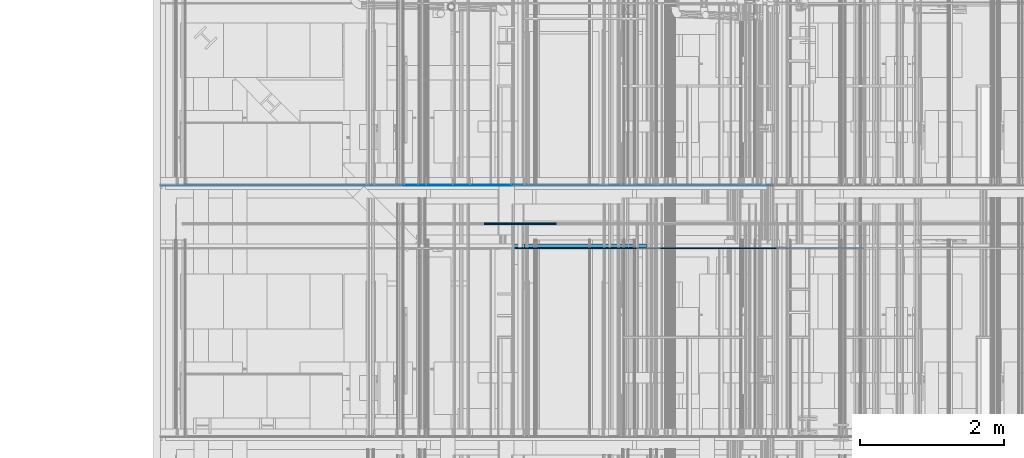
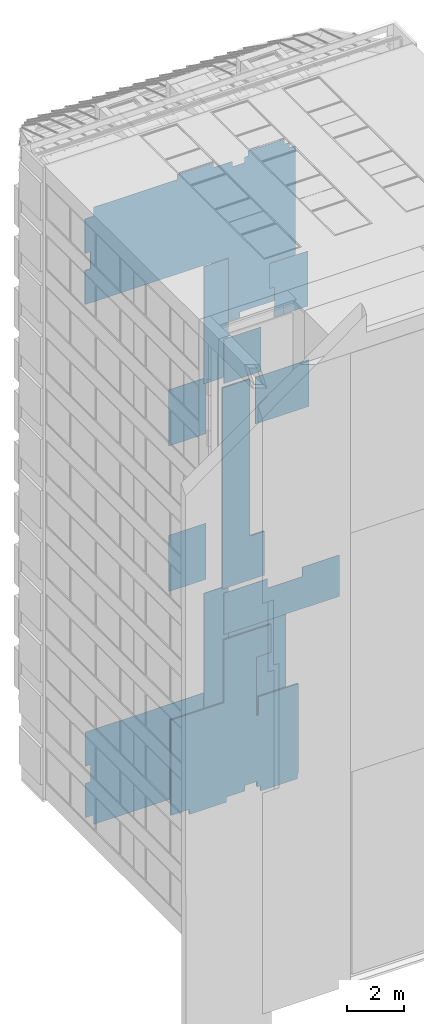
# One storey, part 252 of 583: 18 slabs.
"""IFC2X3 building model written with IfcOpenShell, lengths in metres."""

from ifc_helpers import new_model, entity, si_unit, converted_unit, derived_unit, money_unit, direction, frame, origin_with_axes, place, context, subcontext, project, spatial, faceted_brep, material, type_object, element, save


model = new_model("IFC2X3")

# Units and contexts
model_context = context("Model", 3, precision=1e-05, world=origin_with_axes(), true_north=direction((0.0, 1.0)))
body_context = subcontext(model_context, "Body", "Model", "MODEL_VIEW", scale=1.0)
ifc_project = project(units=[si_unit("LENGTHUNIT", "METRE"), si_unit("AREAUNIT", "SQUARE_METRE"), si_unit("VOLUMEUNIT", "CUBIC_METRE"), si_unit("ABSORBEDDOSEUNIT", "GRAY"), si_unit("AMOUNTOFSUBSTANCEUNIT", "MOLE"), si_unit("DOSEEQUIVALENTUNIT", "SIEVERT"), si_unit("ELECTRICCAPACITANCEUNIT", "FARAD"), si_unit("ELECTRICCHARGEUNIT", "COULOMB"), si_unit("ELECTRICCONDUCTANCEUNIT", "SIEMENS"), si_unit("ELECTRICCURRENTUNIT", "AMPERE"), si_unit("ELECTRICRESISTANCEUNIT", "OHM"), si_unit("ELECTRICVOLTAGEUNIT", "VOLT"), si_unit("ENERGYUNIT", "JOULE"), si_unit("FORCEUNIT", "NEWTON"), si_unit("FREQUENCYUNIT", "HERTZ"), si_unit("ILLUMINANCEUNIT", "LUX"), si_unit("INDUCTANCEUNIT", "HENRY"), si_unit("LUMINOUSFLUXUNIT", "LUMEN"), si_unit("LUMINOUSINTENSITYUNIT", "CANDELA"), si_unit("MAGNETICFLUXDENSITYUNIT", "TESLA"), si_unit("MAGNETICFLUXUNIT", "WEBER"), si_unit("MASSUNIT", "GRAM"), converted_unit("PLANEANGLEUNIT", "degree", entity("IfcReal", 0.0174532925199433), si_unit("PLANEANGLEUNIT", "RADIAN"), dimensions=[0, 0, 0, 0, 0, 0, 0]), si_unit("POWERUNIT", "WATT"), si_unit("PRESSUREUNIT", "PASCAL"), si_unit("RADIOACTIVITYUNIT", "BECQUEREL"), si_unit("SOLIDANGLEUNIT", "STERADIAN"), si_unit("THERMODYNAMICTEMPERATUREUNIT", "KELVIN"), si_unit("TIMEUNIT", "SECOND"), derived_unit("ACCELERATIONUNIT", [(si_unit("LENGTHUNIT", "METRE"), 1), (si_unit("TIMEUNIT", "SECOND"), -2)]), derived_unit("ANGULARVELOCITYUNIT", [(converted_unit("PLANEANGLEUNIT", "degree", entity("IfcReal", 0.0174532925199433), si_unit("PLANEANGLEUNIT", "RADIAN"), dimensions=[0, 0, 0, 0, 0, 0, 0]), 1), (si_unit("TIMEUNIT", "SECOND"), -1)]), derived_unit("CURVATUREUNIT", [(converted_unit("PLANEANGLEUNIT", "degree", entity("IfcReal", 0.0174532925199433), si_unit("PLANEANGLEUNIT", "RADIAN"), dimensions=[0, 0, 0, 0, 0, 0, 0]), 1), (si_unit("LENGTHUNIT", "METRE"), -1)]), derived_unit("DYNAMICVISCOSITYUNIT", [(si_unit("PRESSUREUNIT", "PASCAL"), 1), (si_unit("TIMEUNIT", "SECOND"), 1)]), derived_unit("HEATFLUXDENSITYUNIT", [(si_unit("POWERUNIT", "WATT"), 1), (si_unit("LENGTHUNIT", "METRE"), -2)]), derived_unit("HEATINGVALUEUNIT", [(si_unit("ENERGYUNIT", "JOULE"), 1), (si_unit("MASSUNIT", "GRAM"), -1)]), derived_unit("INTEGERCOUNTRATEUNIT", [(si_unit("TIMEUNIT", "SECOND"), -1)]), derived_unit("IONCONCENTRATIONUNIT", [(si_unit("MASSUNIT", "GRAM"), 1), (si_unit("VOLUMEUNIT", "CUBIC_METRE"), -1)]), derived_unit("ISOTHERMALMOISTURECAPACITYUNIT", [(si_unit("VOLUMEUNIT", "CUBIC_METRE"), 1), (si_unit("MASSUNIT", "GRAM"), -1)]), derived_unit("KINEMATICVISCOSITYUNIT", [(si_unit("AREAUNIT", "SQUARE_METRE"), 1), (si_unit("TIMEUNIT", "SECOND"), -1)]), derived_unit("LINEARFORCEUNIT", [(si_unit("FORCEUNIT", "NEWTON"), 1), (si_unit("LENGTHUNIT", "METRE"), -1)]), derived_unit("LINEARMOMENTUNIT", [(si_unit("FORCEUNIT", "NEWTON"), 1), (si_unit("LENGTHUNIT", "METRE"), -1)]), derived_unit("LINEARSTIFFNESSUNIT", [(si_unit("FORCEUNIT", "NEWTON"), 1), (si_unit("LENGTHUNIT", "METRE"), -1)]), derived_unit("LINEARVELOCITYUNIT", [(si_unit("LENGTHUNIT", "METRE"), 1), (si_unit("TIMEUNIT", "SECOND"), -1)]), derived_unit("LUMINOUSINTENSITYDISTRIBUTIONUNIT", [(si_unit("LUMINOUSINTENSITYUNIT", "CANDELA"), 1), (si_unit("LUMINOUSFLUXUNIT", "LUMEN"), -1)]), derived_unit("MASSDENSITYUNIT", [(si_unit("MASSUNIT", "GRAM"), 1), (si_unit("VOLUMEUNIT", "CUBIC_METRE"), -1)]), derived_unit("MASSFLOWRATEUNIT", [(si_unit("MASSUNIT", "GRAM"), 1), (si_unit("TIMEUNIT", "SECOND"), -1)]), derived_unit("MASSPERLENGTHUNIT", [(si_unit("MASSUNIT", "GRAM"), 1), (si_unit("LENGTHUNIT", "METRE"), -1)]), derived_unit("MODULUSOFELASTICITYUNIT", [(si_unit("FORCEUNIT", "NEWTON"), 1), (si_unit("AREAUNIT", "SQUARE_METRE"), -1)]), derived_unit("MODULUSOFLINEARSUBGRADEREACTIONUNIT", [(si_unit("FORCEUNIT", "NEWTON"), 1), (si_unit("LENGTHUNIT", "METRE"), -2)]), derived_unit("MODULUSOFROTATIONALSUBGRADEREACTIONUNIT", [(si_unit("FORCEUNIT", "NEWTON"), 1), (si_unit("LENGTHUNIT", "METRE"), 1)]), derived_unit("MODULUSOFSUBGRADEREACTIONUNIT", [(si_unit("FORCEUNIT", "NEWTON"), 1), (si_unit("VOLUMEUNIT", "CUBIC_METRE"), -1)]), derived_unit("MOISTUREDIFFUSIVITYUNIT", [(si_unit("VOLUMEUNIT", "CUBIC_METRE"), 1), (si_unit("TIMEUNIT", "SECOND"), -1)]), derived_unit("MOLECULARWEIGHTUNIT", [(si_unit("MASSUNIT", "GRAM"), 1), (si_unit("AMOUNTOFSUBSTANCEUNIT", "MOLE"), -1)]), derived_unit("PLANARFORCEUNIT", [(si_unit("FORCEUNIT", "NEWTON"), 1), (si_unit("LENGTHUNIT", "METRE"), -2)]), derived_unit("ROTATIONALFREQUENCYUNIT", [(si_unit("TIMEUNIT", "SECOND"), -1)]), derived_unit("ROTATIONALMASSUNIT", [(si_unit("MASSUNIT", "GRAM"), 1), (si_unit("LENGTHUNIT", "METRE"), 2)]), derived_unit("ROTATIONALSTIFFNESSUNIT", [(si_unit("FORCEUNIT", "NEWTON"), 1), (si_unit("LENGTHUNIT", "METRE"), 1), (converted_unit("PLANEANGLEUNIT", "degree", entity("IfcReal", 0.0174532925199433), si_unit("PLANEANGLEUNIT", "RADIAN"), dimensions=[0, 0, 0, 0, 0, 0, 0]), -1)]), derived_unit("SECTIONAREAINTEGRALUNIT", [(si_unit("LENGTHUNIT", "METRE"), 5)]), derived_unit("SECTIONMODULUSUNIT", [(si_unit("LENGTHUNIT", "METRE"), 3)]), derived_unit("SHEARMODULUSUNIT", [(si_unit("FORCEUNIT", "NEWTON"), 1), (si_unit("AREAUNIT", "SQUARE_METRE"), -1)]), derived_unit("SOUNDPOWERUNIT", [(si_unit("ENERGYUNIT", "JOULE"), 1), (si_unit("TIMEUNIT", "SECOND"), -1)]), derived_unit("SPECIFICHEATCAPACITYUNIT", [(si_unit("FORCEUNIT", "NEWTON"), 1), (si_unit("MASSUNIT", "GRAM"), -1), (si_unit("THERMODYNAMICTEMPERATUREUNIT", "KELVIN"), -1)]), derived_unit("TEMPERATUREGRADIENTUNIT", [(si_unit("THERMODYNAMICTEMPERATUREUNIT", "KELVIN"), 1), (si_unit("LENGTHUNIT", "METRE"), -1)]), derived_unit("THERMALADMITTANCEUNIT", [(si_unit("POWERUNIT", "WATT"), 1), (si_unit("AREAUNIT", "SQUARE_METRE"), -1), (si_unit("THERMODYNAMICTEMPERATUREUNIT", "KELVIN"), -1)]), derived_unit("THERMALCONDUCTANCEUNIT", [(si_unit("POWERUNIT", "WATT"), 1), (si_unit("LENGTHUNIT", "METRE"), -1), (si_unit("THERMODYNAMICTEMPERATUREUNIT", "KELVIN"), -1)]), derived_unit("THERMALEXPANSIONCOEFFICIENTUNIT", [(si_unit("THERMODYNAMICTEMPERATUREUNIT", "KELVIN"), -1)]), derived_unit("THERMALRESISTANCEUNIT", [(si_unit("AREAUNIT", "SQUARE_METRE"), 1), (si_unit("POWERUNIT", "WATT"), -1)]), derived_unit("THERMALTRANSMITTANCEUNIT", [(si_unit("POWERUNIT", "WATT"), 1), (si_unit("AREAUNIT", "SQUARE_METRE"), -1), (si_unit("THERMODYNAMICTEMPERATUREUNIT", "KELVIN"), -1)]), derived_unit("TORQUEUNIT", [(si_unit("FORCEUNIT", "NEWTON"), 1), (si_unit("LENGTHUNIT", "METRE"), 1)]), derived_unit("VAPORPERMEABILITYUNIT", [(si_unit("MASSUNIT", "GRAM"), 1), (si_unit("TIMEUNIT", "SECOND"), -1)]), derived_unit("VOLUMETRICFLOWRATEUNIT", [(si_unit("VOLUMEUNIT", "CUBIC_METRE"), 1), (si_unit("TIMEUNIT", "SECOND"), -1)]), derived_unit("WARPINGCONSTANTUNIT", [(si_unit("LENGTHUNIT", "METRE"), 6)]), derived_unit("WARPINGMOMENTUNIT", [(si_unit("FORCEUNIT", "NEWTON"), 1), (si_unit("LENGTHUNIT", "METRE"), 2)]), money_unit("GBP")], contexts=[model_context])

# Site, building, storey
site_placement = place(None, origin_with_axes())
site = spatial("IfcSite", under=ifc_project, at=site_placement, Name="Site", CompositionType="ELEMENT")
building_placement = place(site_placement, origin_with_axes())
building = spatial("IfcBuilding", under=site, at=building_placement, Name="Building01", CompositionType="ELEMENT")
storey_placement = place(building_placement, frame((0.0, 0.0, 20.78), z_axis=(0.0, 0.0, 1.0), x_axis=(1.0, 0.0, 0.0)))
storey = spatial("IfcBuildingStorey", under=building, at=storey_placement, Name="RL", CompositionType="ELEMENT", Elevation=20.78)

# Slabs
ifc_material_1 = material(Name="A_BSUK_ExpandedPolystyreneBoards")
slab_type_1 = type_object("IfcSlabType", Name="A-FloorsSlabs A_BSUK_Slabs", PredefinedType="FLOOR")
placement = place(storey_placement, frame((0.0, 0.0, -20.78), z_axis=(0.0, 0.0, 1.0), x_axis=(1.0, 0.0, 0.0)))
element("IfcSlab", 1, at=placement, inside=storey, type_object=slab_type_1, material=ifc_material_1, Name="A-FloorsSlabs A_BSUK_Slabs", ObjectType="CompoundSlabLeaf", context=body_context, shape_type="Brep", body=[
    faceted_brep([(6.357147, 12.13, 20.122661), (6.357147, 12.133, 20.122661), (8.595, 12.133, 20.122661), (8.595, 12.13, 20.122661), (6.357147, 12.13, 19.897661), (6.357147, 12.133, 19.897661), (5.357147, 12.13, 19.897661), (5.357147, 12.133, 19.897661), (5.357147, 12.13, 20.122661), (5.357147, 12.133, 20.122661), (5.205, 12.13, 20.122661), (5.205, 12.133, 20.122661), (5.205, 12.13, 22.625), (5.205, 12.133, 22.625), (0.1, 12.13, 22.625), (0.1, 12.133, 22.625), (0.1, 12.13, 24.095), (0.1, 12.133, 24.095), (0.318, 12.13, 24.095), (0.318, 12.133, 24.095), (0.318, 12.13, 24.815), (0.318, 12.133, 24.815), (0.1, 12.13, 24.815), (0.1, 12.133, 24.815), (0.1, 12.13, 26.285), (0.1, 12.133, 26.285), (0.448, 12.13, 26.285), (0.448, 12.133, 26.285), (0.448, 12.13, 26.662), (0.448, 12.133, 26.662), (3.82218, 12.13, 26.662), (3.82218, 12.133, 26.662), (3.82218, 12.13, 26.88), (3.82218, 12.133, 26.88), (5.29218, 12.13, 26.88), (5.29218, 12.133, 26.88), (5.29218, 12.13, 26.662), (5.29218, 12.133, 26.662), (6.052, 12.13, 26.662), (6.052, 12.133, 26.662), (6.052, 12.13, 26.432), (6.052, 12.133, 26.432), (6.548, 12.13, 26.432), (6.548, 12.133, 26.432), (6.548, 12.13, 26.662), (6.548, 12.133, 26.662), (6.682326, 12.13, 26.662), (6.682326, 12.133, 26.662), (6.682326, 12.13, 26.88), (6.682326, 12.133, 26.88), (8.152326, 12.13, 26.88), (8.152326, 12.133, 26.88), (8.152326, 12.13, 26.662), (8.152326, 12.133, 26.662), (8.352, 12.13, 26.662), (8.352, 12.133, 26.662), (8.352, 12.13, 26.432), (8.352, 12.133, 26.432), (8.595, 12.13, 26.432), (8.595, 12.133, 26.432)], [[[0, 1, 2, 3]], [[4, 5, 1, 0]], [[6, 7, 5, 4]], [[8, 9, 7, 6]], [[10, 11, 9, 8]], [[12, 13, 11, 10]], [[14, 15, 13, 12]], [[16, 17, 15, 14]], [[18, 19, 17, 16]], [[20, 21, 19, 18]], [[22, 23, 21, 20]], [[24, 25, 23, 22]], [[26, 27, 25, 24]], [[28, 29, 27, 26]], [[30, 31, 29, 28]], [[32, 33, 31, 30]], [[34, 35, 33, 32]], [[36, 37, 35, 34]], [[38, 39, 37, 36]], [[40, 41, 39, 38]], [[42, 43, 41, 40]], [[44, 45, 43, 42]], [[46, 47, 45, 44]], [[48, 49, 47, 46]], [[50, 51, 49, 48]], [[52, 53, 51, 50]], [[54, 55, 53, 52]], [[56, 57, 55, 54]], [[58, 59, 57, 56]], [[3, 2, 59, 58]], [[1, 5, 7, 9, 11, 13, 15, 17, 19, 21, 23, 25, 27, 29, 31, 33, 35, 37, 39, 41, 43, 45, 47, 49, 51, 53, 55, 57, 59, 2]], [[3, 58, 56, 54, 52, 50, 48, 46, 44, 42, 40, 38, 36, 34, 32, 30, 28, 26, 24, 22, 20, 18, 16, 14, 12, 10, 8, 6, 4, 0]]]),
])
element("IfcSlab", 2, at=placement, inside=storey, type_object=slab_type_1, material=ifc_material_1, Name="A-FloorsSlabs A_BSUK_Slabs", ObjectType="CompoundSlabLeaf", context=body_context, shape_type="Brep", body=[
    faceted_brep([(8.21067, 12.13, 0.318), (8.21067, 12.133, 0.318), (8.21067, 12.133, 7.064669), (8.21067, 12.13, 7.064669), (8.185, 12.13, 0.318), (8.185, 12.133, 0.318), (8.185, 12.13, 0.1), (8.185, 12.133, 0.1), (6.69218, 12.13, 0.1), (6.69218, 12.133, 0.1), (6.69218, 12.13, 0.318), (6.69218, 12.133, 0.318), (6.548, 12.13, 0.318), (6.548, 12.133, 0.318), (6.548, 12.13, 0.548), (6.548, 12.133, 0.548), (6.052, 12.13, 0.548), (6.052, 12.133, 0.548), (6.052, 12.13, 0.318), (6.052, 12.133, 0.318), (5.315, 12.13, 0.318), (5.315, 12.133, 0.318), (5.315, 12.13, 0.1), (5.315, 12.133, 0.1), (3.82218, 12.13, 0.1), (3.82218, 12.133, 0.1), (3.82218, 12.13, 0.318), (3.82218, 12.133, 0.318), (0.448, 12.13, 0.318), (0.448, 12.133, 0.318), (0.448, 12.13, 0.725), (0.448, 12.133, 0.725), (0.1, 12.13, 0.725), (0.1, 12.133, 0.725), (0.1, 12.13, 2.195), (0.1, 12.133, 2.195), (0.318, 12.13, 2.195), (0.318, 12.133, 2.195), (0.318, 12.13, 2.915), (0.318, 12.133, 2.915), (0.1, 12.13, 2.915), (0.1, 12.133, 2.915), (0.1, 12.13, 4.385), (0.1, 12.133, 4.385), (0.318, 12.13, 4.385), (0.318, 12.133, 4.385), (5.205, 12.13, 4.385), (5.205, 12.133, 4.385), (5.205, 12.13, 7.064669), (5.205, 12.133, 7.064669), (5.316475, 12.13, 7.064669), (5.316475, 12.133, 7.064669), (5.316475, 12.13, 7.289669), (5.316475, 12.133, 7.289669), (6.316475, 12.13, 7.289669), (6.316475, 12.133, 7.289669), (6.316475, 12.13, 7.064669), (6.316475, 12.133, 7.064669)], [[[0, 1, 2, 3]], [[4, 5, 1, 0]], [[6, 7, 5, 4]], [[8, 9, 7, 6]], [[10, 11, 9, 8]], [[12, 13, 11, 10]], [[14, 15, 13, 12]], [[16, 17, 15, 14]], [[18, 19, 17, 16]], [[20, 21, 19, 18]], [[22, 23, 21, 20]], [[24, 25, 23, 22]], [[26, 27, 25, 24]], [[28, 29, 27, 26]], [[30, 31, 29, 28]], [[32, 33, 31, 30]], [[34, 35, 33, 32]], [[36, 37, 35, 34]], [[38, 39, 37, 36]], [[40, 41, 39, 38]], [[42, 43, 41, 40]], [[44, 45, 43, 42]], [[46, 47, 45, 44]], [[48, 49, 47, 46]], [[50, 51, 49, 48]], [[52, 53, 51, 50]], [[54, 55, 53, 52]], [[56, 57, 55, 54]], [[3, 2, 57, 56]], [[1, 5, 7, 9, 11, 13, 15, 17, 19, 21, 23, 25, 27, 29, 31, 33, 35, 37, 39, 41, 43, 45, 47, 49, 51, 53, 55, 57, 2]], [[3, 56, 54, 52, 50, 48, 46, 44, 42, 40, 38, 36, 34, 32, 30, 28, 26, 24, 22, 20, 18, 16, 14, 12, 10, 8, 6, 4, 0]]]),
])
ifc_material_2 = material(Name="A_BSUK_Parquet_Floor")
element("IfcSlab", 3, at=placement, inside=storey, type_object=slab_type_1, material=ifc_material_2, Name="A-FloorsSlabs A_BSUK_Slabs", ObjectType="CompoundSlabLeaf", context=body_context, shape_type="Brep", body=[
    faceted_brep([(5.357147, 12.133, 19.897661), (5.357147, 12.145, 19.897661), (6.357147, 12.145, 19.897661), (6.357147, 12.133, 19.897661), (5.357147, 12.133, 20.122661), (5.357147, 12.145, 20.122661), (5.205, 12.133, 20.122661), (5.205, 12.145, 20.122661), (5.205, 12.133, 22.625), (5.205, 12.145, 22.625), (0.1, 12.133, 22.625), (0.1, 12.145, 22.625), (0.1, 12.133, 24.095), (0.1, 12.145, 24.095), (0.318, 12.133, 24.095), (0.318, 12.145, 24.095), (0.318, 12.133, 24.815), (0.318, 12.145, 24.815), (0.1, 12.133, 24.815), (0.1, 12.145, 24.815), (0.1, 12.133, 26.285), (0.1, 12.145, 26.285), (0.448, 12.133, 26.285), (0.448, 12.145, 26.285), (0.448, 12.133, 26.662), (0.448, 12.145, 26.662), (3.82218, 12.133, 26.662), (3.82218, 12.145, 26.662), (3.82218, 12.133, 26.88), (3.82218, 12.145, 26.88), (5.29218, 12.133, 26.88), (5.29218, 12.145, 26.88), (5.29218, 12.133, 26.662), (5.29218, 12.145, 26.662), (6.052, 12.133, 26.662), (6.052, 12.145, 26.662), (6.052, 12.133, 26.432), (6.052, 12.145, 26.432), (6.548, 12.133, 26.432), (6.548, 12.145, 26.432), (6.548, 12.133, 26.662), (6.548, 12.145, 26.662), (6.682326, 12.133, 26.662), (6.682326, 12.145, 26.662), (6.682326, 12.133, 26.88), (6.682326, 12.145, 26.88), (8.152326, 12.133, 26.88), (8.152326, 12.145, 26.88), (8.152326, 12.133, 26.662), (8.152326, 12.145, 26.662), (8.352, 12.133, 26.662), (8.352, 12.145, 26.662), (8.352, 12.133, 26.432), (8.352, 12.145, 26.432), (8.595, 12.133, 26.432), (8.595, 12.145, 26.432), (8.595, 12.133, 22.571661), (8.595, 12.145, 22.571661), (7.0, 12.133, 22.571661), (7.0, 12.145, 22.571661), (7.0, 12.133, 23.271529), (7.0, 12.145, 23.271529), (6.905, 12.133, 23.271529), (6.905, 12.145, 23.271529), (6.905, 12.133, 22.326661), (6.905, 12.145, 22.326661), (7.0, 12.133, 22.326661), (7.0, 12.145, 22.326661), (7.0, 12.133, 21.576661), (7.0, 12.145, 21.576661), (6.905, 12.133, 21.576661), (6.905, 12.145, 21.576661), (6.905, 12.133, 21.322661), (6.905, 12.145, 21.322661), (7.155, 12.133, 21.322661), (7.155, 12.145, 21.322661), (7.155, 12.133, 20.122661), (7.155, 12.145, 20.122661), (6.905, 12.133, 20.122661), (6.905, 12.145, 20.122661), (6.357147, 12.133, 20.122661), (6.357147, 12.145, 20.122661)], [[[0, 1, 2, 3]], [[4, 5, 1, 0]], [[6, 7, 5, 4]], [[8, 9, 7, 6]], [[10, 11, 9, 8]], [[12, 13, 11, 10]], [[14, 15, 13, 12]], [[16, 17, 15, 14]], [[18, 19, 17, 16]], [[20, 21, 19, 18]], [[22, 23, 21, 20]], [[24, 25, 23, 22]], [[26, 27, 25, 24]], [[28, 29, 27, 26]], [[30, 31, 29, 28]], [[32, 33, 31, 30]], [[34, 35, 33, 32]], [[36, 37, 35, 34]], [[38, 39, 37, 36]], [[40, 41, 39, 38]], [[42, 43, 41, 40]], [[44, 45, 43, 42]], [[46, 47, 45, 44]], [[48, 49, 47, 46]], [[50, 51, 49, 48]], [[52, 53, 51, 50]], [[54, 55, 53, 52]], [[56, 57, 55, 54]], [[58, 59, 57, 56]], [[60, 61, 59, 58]], [[62, 63, 61, 60]], [[64, 65, 63, 62]], [[66, 67, 65, 64]], [[68, 69, 67, 66]], [[70, 71, 69, 68]], [[72, 73, 71, 70]], [[74, 75, 73, 72]], [[76, 77, 75, 74]], [[78, 79, 77, 76]], [[80, 81, 79, 78]], [[3, 2, 81, 80]], [[1, 5, 7, 9, 11, 13, 15, 17, 19, 21, 23, 25, 27, 29, 31, 33, 35, 37, 39, 41, 43, 45, 47, 49, 51, 53, 55, 57, 59, 61, 63, 65, 67, 69, 71, 73, 75, 77, 79, 81, 2]], [[3, 80, 78, 76, 74, 72, 70, 68, 66, 64, 62, 60, 58, 56, 54, 52, 50, 48, 46, 44, 42, 40, 38, 36, 34, 32, 30, 28, 26, 24, 22, 20, 18, 16, 14, 12, 10, 8, 6, 4, 0]]]),
])
ifc_material_3 = material(Name="A_BSUK_Ceramic_FloorTiles")
element("IfcSlab", 4, at=placement, inside=storey, type_object=slab_type_1, material=ifc_material_3, Name="A-FloorsSlabs A_BSUK_Slabs", ObjectType="CompoundSlabLeaf", context=body_context, shape_type="Brep", body=[
    faceted_brep([(4.98, 12.133, 15.4075), (4.98, 12.145, 15.4075), (4.98, 12.145, 17.8075), (4.98, 12.133, 17.8075), (4.259428, 12.133, 15.4075), (4.259428, 12.145, 15.4075), (3.48, 12.133, 15.4075), (3.48, 12.145, 15.4075), (3.48, 12.133, 17.8075), (3.48, 12.145, 17.8075)], [[[0, 1, 2, 3]], [[4, 5, 1, 0]], [[6, 7, 5, 4]], [[8, 9, 7, 6]], [[3, 2, 9, 8]], [[1, 5, 7, 9, 2]], [[3, 8, 6, 4, 0]]]),
])
element("IfcSlab", 5, at=placement, inside=storey, type_object=slab_type_1, material=ifc_material_3, Name="A-FloorsSlabs A_BSUK_Slabs", ObjectType="CompoundSlabLeaf", context=body_context, shape_type="Brep", body=[
    faceted_brep([(4.98, 12.133, 9.192536), (4.98, 12.145, 9.192536), (4.98, 12.145, 11.592536), (4.98, 12.133, 11.592536), (3.48, 12.133, 9.192536), (3.48, 12.145, 9.192536), (3.48, 12.133, 11.592536), (3.48, 12.145, 11.592536), (4.259428, 12.133, 11.592536), (4.259428, 12.145, 11.592536)], [[[0, 1, 2, 3]], [[4, 5, 1, 0]], [[6, 7, 5, 4]], [[8, 9, 7, 6]], [[3, 2, 9, 8]], [[1, 5, 7, 9, 2]], [[3, 8, 6, 4, 0]]]),
])
element("IfcSlab", 6, at=placement, inside=storey, type_object=slab_type_1, material=ifc_material_2, Name="A-FloorsSlabs A_BSUK_Slabs", ObjectType="CompoundSlabLeaf", context=body_context, shape_type="Brep", body=[
    faceted_brep([(6.316475, 12.133, 7.289669), (6.316475, 12.145, 7.289669), (5.316475, 12.145, 7.289669), (5.316475, 12.133, 7.289669), (6.316475, 12.133, 7.064669), (6.316475, 12.145, 7.064669), (7.111475, 12.133, 7.064669), (7.111475, 12.145, 7.064669), (7.111475, 12.133, 5.864669), (7.111475, 12.145, 5.864669), (6.511475, 12.133, 5.864669), (6.511475, 12.145, 5.864669), (6.511475, 12.133, 5.679088), (6.511475, 12.145, 5.679088), (6.606475, 12.133, 5.679088), (6.606475, 12.145, 5.679088), (6.606475, 12.133, 4.929088), (6.606475, 12.145, 4.929088), (6.511475, 12.133, 4.929088), (6.511475, 12.145, 4.929088), (6.511475, 12.133, 3.37073), (6.511475, 12.145, 3.37073), (6.606475, 12.133, 3.37073), (6.606475, 12.145, 3.37073), (6.606475, 12.133, 4.14573), (6.606475, 12.145, 4.14573), (8.21067, 12.133, 4.14573), (8.21067, 12.145, 4.14573), (8.21067, 12.133, 0.318), (8.21067, 12.145, 0.318), (8.185, 12.133, 0.318), (8.185, 12.145, 0.318), (8.185, 12.133, 0.1), (8.185, 12.145, 0.1), (6.69218, 12.133, 0.1), (6.69218, 12.145, 0.1), (6.69218, 12.133, 0.318), (6.69218, 12.145, 0.318), (6.548, 12.133, 0.318), (6.548, 12.145, 0.318), (6.548, 12.133, 0.548), (6.548, 12.145, 0.548), (6.052, 12.133, 0.548), (6.052, 12.145, 0.548), (6.052, 12.133, 0.318), (6.052, 12.145, 0.318), (5.315, 12.133, 0.318), (5.315, 12.145, 0.318), (5.315, 12.133, 0.1), (5.315, 12.145, 0.1), (3.82218, 12.133, 0.1), (3.82218, 12.145, 0.1), (3.82218, 12.133, 0.318), (3.82218, 12.145, 0.318), (3.065286, 12.133, 0.318), (3.065286, 12.145, 0.318), (3.065286, 12.133, 2.751), (3.065286, 12.145, 2.751), (2.970286, 12.133, 2.751), (2.970286, 12.145, 2.751), (2.970286, 12.133, 3.651), (2.970286, 12.145, 3.651), (3.065286, 12.133, 3.651), (3.065286, 12.145, 3.651), (3.065286, 12.133, 4.385), (3.065286, 12.145, 4.385), (5.205, 12.133, 4.385), (5.205, 12.145, 4.385), (5.205, 12.133, 7.064669), (5.205, 12.145, 7.064669), (5.316475, 12.133, 7.064669), (5.316475, 12.145, 7.064669)], [[[0, 1, 2, 3]], [[4, 5, 1, 0]], [[6, 7, 5, 4]], [[8, 9, 7, 6]], [[10, 11, 9, 8]], [[12, 13, 11, 10]], [[14, 15, 13, 12]], [[16, 17, 15, 14]], [[18, 19, 17, 16]], [[20, 21, 19, 18]], [[22, 23, 21, 20]], [[24, 25, 23, 22]], [[26, 27, 25, 24]], [[28, 29, 27, 26]], [[30, 31, 29, 28]], [[32, 33, 31, 30]], [[34, 35, 33, 32]], [[36, 37, 35, 34]], [[38, 39, 37, 36]], [[40, 41, 39, 38]], [[42, 43, 41, 40]], [[44, 45, 43, 42]], [[46, 47, 45, 44]], [[48, 49, 47, 46]], [[50, 51, 49, 48]], [[52, 53, 51, 50]], [[54, 55, 53, 52]], [[56, 57, 55, 54]], [[58, 59, 57, 56]], [[60, 61, 59, 58]], [[62, 63, 61, 60]], [[64, 65, 63, 62]], [[66, 67, 65, 64]], [[68, 69, 67, 66]], [[70, 71, 69, 68]], [[3, 2, 71, 70]], [[1, 5, 7, 9, 11, 13, 15, 17, 19, 21, 23, 25, 27, 29, 31, 33, 35, 37, 39, 41, 43, 45, 47, 49, 51, 53, 55, 57, 59, 61, 63, 65, 67, 69, 71, 2]], [[3, 70, 68, 66, 64, 62, 60, 58, 56, 54, 52, 50, 48, 46, 44, 42, 40, 38, 36, 34, 32, 30, 28, 26, 24, 22, 20, 18, 16, 14, 12, 10, 8, 6, 4, 0]]]),
])
ifc_material_4 = material(Name="A_BSUK_CeilingSoffitFinishes_Suspended")
element("IfcSlab", 7, at=placement, inside=storey, type_object=slab_type_1, material=ifc_material_4, Name="A-FloorsSlabs A_BSUK_Slabs", ObjectType="CompoundSlabLeaf", context=body_context, shape_type="Brep", body=[
    faceted_brep([(5.205, 11.255, 7.289669), (5.205, 11.27, 7.289669), (9.862704, 11.27, 7.289669), (9.862704, 11.255, 7.289669), (5.205, 11.255, 9.06), (5.205, 11.27, 9.06), (6.968405, 11.255, 9.06), (6.968405, 11.27, 9.06), (6.968405, 11.255, 8.658), (6.968405, 11.27, 8.658), (8.372405, 11.255, 8.658), (8.372405, 11.27, 8.658), (8.372405, 11.255, 9.06), (8.372405, 11.27, 9.06), (8.665, 11.255, 9.06), (8.665, 11.27, 9.06), (9.862704, 11.255, 9.06), (9.862704, 11.27, 9.06)], [[[0, 1, 2, 3]], [[4, 5, 1, 0]], [[6, 7, 5, 4]], [[8, 9, 7, 6]], [[10, 11, 9, 8]], [[12, 13, 11, 10]], [[14, 15, 13, 12]], [[16, 17, 15, 14]], [[3, 2, 17, 16]], [[1, 5, 7, 9, 11, 13, 15, 17, 2]], [[3, 16, 14, 12, 10, 8, 6, 4, 0]]]),
])
element("IfcSlab", 8, at=placement, inside=storey, type_object=slab_type_1, material=ifc_material_4, Name="A-FloorsSlabs A_BSUK_Slabs", ObjectType="CompoundSlabLeaf", context=body_context, shape_type="Brep", body=[
    faceted_brep([(5.15, 11.255, 9.25), (5.15, 11.27, 9.25), (6.85, 11.27, 9.25), (6.85, 11.255, 9.25), (5.15, 11.255, 17.83), (5.15, 11.27, 17.83), (6.25, 11.255, 17.83), (6.25, 11.27, 17.83), (6.25, 11.255, 15.679803), (6.25, 11.27, 15.679803), (6.25, 11.255, 11.13), (6.25, 11.27, 11.13), (6.85, 11.255, 11.13), (6.85, 11.27, 11.13)], [[[0, 1, 2, 3]], [[4, 5, 1, 0]], [[6, 7, 5, 4]], [[8, 9, 7, 6]], [[10, 11, 9, 8]], [[12, 13, 11, 10]], [[3, 2, 13, 12]], [[1, 5, 7, 9, 11, 13, 2]], [[3, 12, 10, 8, 6, 4, 0]]]),
])
element("IfcSlab", 9, at=placement, inside=storey, type_object=slab_type_1, material=ifc_material_4, Name="A-FloorsSlabs A_BSUK_Slabs", ObjectType="CompoundSlabLeaf", context=body_context, shape_type="Brep", body=[
    faceted_brep([(6.705, 11.255, 18.0), (6.705, 11.27, 18.0), (6.705, 11.27, 19.897661), (6.705, 11.255, 19.897661), (5.205, 11.255, 18.0), (5.205, 11.27, 18.0), (5.205, 11.255, 19.897661), (5.205, 11.27, 19.897661)], [[[0, 1, 2, 3]], [[4, 5, 1, 0]], [[6, 7, 5, 4]], [[3, 2, 7, 6]], [[1, 5, 7, 2]], [[3, 6, 4, 0]]]),
])
element("IfcSlab", 10, at=placement, inside=storey, type_object=slab_type_1, material=ifc_material_4, Name="A-FloorsSlabs A_BSUK_Slabs", ObjectType="CompoundSlabLeaf", context=body_context, shape_type="Brep", body=[
    faceted_brep([(6.475, 11.255, 15.83), (6.475, 11.27, 15.83), (8.65, 11.27, 15.83), (8.65, 11.255, 15.83), (6.475, 11.255, 17.83), (6.475, 11.27, 17.83), (8.65, 11.255, 17.83), (8.65, 11.27, 17.83)], [[[0, 1, 2, 3]], [[4, 5, 1, 0]], [[6, 7, 5, 4]], [[3, 2, 7, 6]], [[1, 5, 7, 2]], [[3, 6, 4, 0]]]),
])
element("IfcSlab", 11, at=placement, inside=storey, type_object=slab_type_1, material=ifc_material_4, Name="A-FloorsSlabs A_BSUK_Slabs", ObjectType="CompoundSlabLeaf", context=body_context, shape_type="Brep", body=[
    faceted_brep([(8.595, 11.255, 20.122661), (8.595, 11.27, 20.122661), (8.595, 11.27, 22.476661), (8.595, 11.255, 22.476661), (7.25, 11.255, 20.122661), (7.25, 11.27, 20.122661), (7.25, 11.255, 21.417661), (7.25, 11.27, 21.417661), (7.05, 11.255, 21.417661), (7.05, 11.27, 21.417661), (7.05, 11.255, 22.476661), (7.05, 11.27, 22.476661)], [[[0, 1, 2, 3]], [[4, 5, 1, 0]], [[6, 7, 5, 4]], [[8, 9, 7, 6]], [[10, 11, 9, 8]], [[3, 2, 11, 10]], [[1, 5, 7, 9, 11, 2]], [[3, 10, 8, 6, 4, 0]]]),
])
element("IfcSlab", 12, at=placement, inside=storey, type_object=slab_type_1, material=ifc_material_4, Name="A-FloorsSlabs A_BSUK_Slabs", ObjectType="CompoundSlabLeaf", context=body_context, shape_type="Brep", body=[
    faceted_brep([(6.466475, 11.255, 7.064669), (6.466475, 11.27, 7.064669), (5.466475, 11.27, 7.064669), (5.466475, 11.255, 7.064669), (7.111475, 11.255, 7.064669), (7.111475, 11.27, 7.064669), (7.111475, 11.255, 5.864669), (7.111475, 11.27, 5.864669), (6.511475, 11.255, 5.864669), (6.511475, 11.27, 5.864669), (6.511475, 11.255, 5.771088), (6.511475, 11.27, 5.771088), (6.511475, 11.255, 4.937088), (6.511475, 11.27, 4.937088), (6.511475, 11.255, 3.37073), (6.511475, 11.27, 3.37073), (6.606475, 11.255, 3.37073), (6.606475, 11.27, 3.37073), (6.606475, 11.255, 4.14573), (6.606475, 11.27, 4.14573), (8.21067, 11.255, 4.14573), (8.21067, 11.27, 4.14573), (8.21067, 11.255, 0.333), (8.21067, 11.27, 0.333), (8.17, 11.255, 0.333), (8.17, 11.27, 0.333), (8.17, 11.255, 0.1), (8.17, 11.27, 0.1), (6.69218, 11.255, 0.1), (6.69218, 11.27, 0.1), (6.69218, 11.255, 0.318), (6.69218, 11.27, 0.318), (6.548, 11.255, 0.318), (6.548, 11.27, 0.318), (6.548, 11.255, 0.548), (6.548, 11.27, 0.548), (6.052, 11.255, 0.548), (6.052, 11.27, 0.548), (6.052, 11.255, 0.318), (6.052, 11.27, 0.318), (5.315, 11.255, 0.318), (5.315, 11.27, 0.318), (5.315, 11.255, 0.1), (5.315, 11.27, 0.1), (3.82218, 11.255, 0.1), (3.82218, 11.27, 0.1), (3.82218, 11.255, 0.318), (3.82218, 11.27, 0.318), (3.065286, 11.255, 0.318), (3.065286, 11.27, 0.318), (3.065286, 11.255, 4.385), (3.065286, 11.27, 4.385), (5.205, 11.255, 4.385), (5.205, 11.27, 4.385), (5.205, 11.255, 7.064669), (5.205, 11.27, 7.064669)], [[[0, 1, 2, 3]], [[4, 5, 1, 0]], [[6, 7, 5, 4]], [[8, 9, 7, 6]], [[10, 11, 9, 8]], [[12, 13, 11, 10]], [[14, 15, 13, 12]], [[16, 17, 15, 14]], [[18, 19, 17, 16]], [[20, 21, 19, 18]], [[22, 23, 21, 20]], [[24, 25, 23, 22]], [[26, 27, 25, 24]], [[28, 29, 27, 26]], [[30, 31, 29, 28]], [[32, 33, 31, 30]], [[34, 35, 33, 32]], [[36, 37, 35, 34]], [[38, 39, 37, 36]], [[40, 41, 39, 38]], [[42, 43, 41, 40]], [[44, 45, 43, 42]], [[46, 47, 45, 44]], [[48, 49, 47, 46]], [[50, 51, 49, 48]], [[52, 53, 51, 50]], [[54, 55, 53, 52]], [[3, 2, 55, 54]], [[1, 5, 7, 9, 11, 13, 15, 17, 19, 21, 23, 25, 27, 29, 31, 33, 35, 37, 39, 41, 43, 45, 47, 49, 51, 53, 55, 2]], [[3, 54, 52, 50, 48, 46, 44, 42, 40, 38, 36, 34, 32, 30, 28, 26, 24, 22, 20, 18, 16, 14, 12, 10, 8, 6, 4, 0]]]),
])
element("IfcSlab", 13, at=placement, inside=storey, type_object=slab_type_1, material=ifc_material_4, Name="A-FloorsSlabs A_BSUK_Slabs", ObjectType="CompoundSlabLeaf", context=body_context, shape_type="Brep", body=[
    faceted_brep([(4.593, 11.605, 18.0), (4.593, 11.62, 18.0), (5.593, 11.62, 18.0), (5.593, 11.605, 18.0), (4.593, 11.605, 23.0125), (4.593, 11.62, 23.0125), (5.593, 11.605, 23.0125), (5.593, 11.62, 23.0125)], [[[0, 1, 2, 3]], [[4, 5, 1, 0]], [[6, 7, 5, 4]], [[3, 2, 7, 6]], [[1, 5, 7, 2]], [[3, 6, 4, 0]]]),
])
element("IfcSlab", 14, at=placement, inside=storey, type_object=slab_type_1, material=ifc_material_4, Name="A-FloorsSlabs A_BSUK_Slabs", ObjectType="CompoundSlabLeaf", context=body_context, shape_type="Brep", body=[
    faceted_brep([(4.593, 11.605, 3.997), (4.593, 11.62, 3.997), (5.593, 11.62, 3.997), (5.593, 11.605, 3.997), (4.593, 11.605, 9.06), (4.593, 11.62, 9.06), (5.593, 11.605, 9.06), (5.593, 11.62, 9.06)], [[[0, 1, 2, 3]], [[4, 5, 1, 0]], [[6, 7, 5, 4]], [[3, 2, 7, 6]], [[1, 5, 7, 2]], [[3, 6, 4, 0]]]),
])
element("IfcSlab", 15, at=placement, inside=storey, type_object=slab_type_1, material=ifc_material_4, Name="A-FloorsSlabs A_BSUK_Slabs", ObjectType="CompoundSlabLeaf", context=body_context, shape_type="Brep", body=[
    faceted_brep([(4.593, 11.59, 18.0), (4.593, 11.605, 18.0), (5.593, 11.605, 18.0), (5.593, 11.59, 18.0), (4.593, 11.59, 23.0125), (4.593, 11.605, 23.0125), (5.593, 11.59, 23.0125), (5.593, 11.605, 23.0125)], [[[0, 1, 2, 3]], [[4, 5, 1, 0]], [[6, 7, 5, 4]], [[3, 2, 7, 6]], [[1, 5, 7, 2]], [[3, 6, 4, 0]]]),
])
element("IfcSlab", 16, at=placement, inside=storey, type_object=slab_type_1, material=ifc_material_4, Name="A-FloorsSlabs A_BSUK_Slabs", ObjectType="CompoundSlabLeaf", context=body_context, shape_type="Brep", body=[
    faceted_brep([(4.593, 11.59, 3.997), (4.593, 11.605, 3.997), (5.593, 11.605, 3.997), (5.593, 11.59, 3.997), (4.593, 11.59, 9.06), (4.593, 11.605, 9.06), (5.593, 11.59, 9.06), (5.593, 11.605, 9.06)], [[[0, 1, 2, 3]], [[4, 5, 1, 0]], [[6, 7, 5, 4]], [[3, 2, 7, 6]], [[1, 5, 7, 2]], [[3, 6, 4, 0]]]),
])
slab_type_2 = type_object("IfcSlabType", Name="A-FloorsSlabs A_BSUK_ExpandedPolystyreneBoards", PredefinedType="FLOOR")
element("IfcSlab", 17, at=placement, inside=storey, type_object=slab_type_2, material=ifc_material_1, Name="A-FloorsSlabs A_BSUK_ExpandedPolystyreneBoards", ObjectType="CompoundSlabLeaf", context=body_context, shape_type="Brep", body=[
    faceted_brep([(6.466475, 11.27, 7.064669), (6.466475, 11.32, 7.064669), (5.466475, 11.32, 7.064669), (5.466475, 11.27, 7.064669), (7.111475, 11.27, 7.064669), (7.111475, 11.32, 7.064669), (7.111475, 11.27, 5.864669), (7.111475, 11.32, 5.864669), (6.511475, 11.27, 5.864669), (6.511475, 11.32, 5.864669), (6.511475, 11.27, 5.771088), (6.511475, 11.32, 5.771088), (6.511475, 11.27, 4.937088), (6.511475, 11.32, 4.937088), (6.511475, 11.27, 3.37073), (6.511475, 11.32, 3.37073), (6.606475, 11.27, 3.37073), (6.606475, 11.32, 3.37073), (6.606475, 11.27, 4.14573), (6.606475, 11.32, 4.14573), (8.21067, 11.27, 4.14573), (8.21067, 11.32, 4.14573), (8.21067, 11.27, 0.318), (8.21067, 11.32, 0.318), (8.185, 11.27, 0.318), (8.185, 11.32, 0.318), (8.185, 11.27, 0.1), (8.185, 11.32, 0.1), (6.69218, 11.27, 0.1), (6.69218, 11.32, 0.1), (6.69218, 11.27, 0.318), (6.69218, 11.32, 0.318), (6.548, 11.27, 0.318), (6.548, 11.32, 0.318), (6.548, 11.27, 0.548), (6.548, 11.32, 0.548), (6.052, 11.27, 0.548), (6.052, 11.32, 0.548), (6.052, 11.27, 0.318), (6.052, 11.32, 0.318), (5.315, 11.27, 0.318), (5.315, 11.32, 0.318), (5.315, 11.27, 0.1), (5.315, 11.32, 0.1), (3.82218, 11.27, 0.1), (3.82218, 11.32, 0.1), (3.82218, 11.27, 0.318), (3.82218, 11.32, 0.318), (3.065286, 11.27, 0.318), (3.065286, 11.32, 0.318), (3.065286, 11.27, 4.385), (3.065286, 11.32, 4.385), (5.205, 11.27, 4.385), (5.205, 11.32, 4.385), (5.205, 11.27, 7.064669), (5.205, 11.32, 7.064669)], [[[0, 1, 2, 3]], [[4, 5, 1, 0]], [[6, 7, 5, 4]], [[8, 9, 7, 6]], [[10, 11, 9, 8]], [[12, 13, 11, 10]], [[14, 15, 13, 12]], [[16, 17, 15, 14]], [[18, 19, 17, 16]], [[20, 21, 19, 18]], [[22, 23, 21, 20]], [[24, 25, 23, 22]], [[26, 27, 25, 24]], [[28, 29, 27, 26]], [[30, 31, 29, 28]], [[32, 33, 31, 30]], [[34, 35, 33, 32]], [[36, 37, 35, 34]], [[38, 39, 37, 36]], [[40, 41, 39, 38]], [[42, 43, 41, 40]], [[44, 45, 43, 42]], [[46, 47, 45, 44]], [[48, 49, 47, 46]], [[50, 51, 49, 48]], [[52, 53, 51, 50]], [[54, 55, 53, 52]], [[3, 2, 55, 54]], [[1, 5, 7, 9, 11, 13, 15, 17, 19, 21, 23, 25, 27, 29, 31, 33, 35, 37, 39, 41, 43, 45, 47, 49, 51, 53, 55, 2]], [[3, 54, 52, 50, 48, 46, 44, 42, 40, 38, 36, 34, 32, 30, 28, 26, 24, 22, 20, 18, 16, 14, 12, 10, 8, 6, 4, 0]]]),
])
element("IfcSlab", 18, at=placement, inside=storey, type_object=slab_type_2, material=ifc_material_1, Name="A-FloorsSlabs A_BSUK_ExpandedPolystyreneBoards", ObjectType="CompoundSlabLeaf", context=body_context, shape_type="Brep", body=[
    faceted_brep([(5.15, 11.27, 9.25), (5.15, 11.32, 9.25), (6.85, 11.32, 9.25), (6.85, 11.27, 9.25), (5.15, 11.27, 17.83), (5.15, 11.32, 17.83), (6.25, 11.27, 17.83), (6.25, 11.32, 17.83), (6.25, 11.27, 15.679803), (6.25, 11.32, 15.679803), (6.25, 11.27, 11.13), (6.25, 11.32, 11.13), (6.85, 11.27, 11.13), (6.85, 11.32, 11.13)], [[[0, 1, 2, 3]], [[4, 5, 1, 0]], [[6, 7, 5, 4]], [[8, 9, 7, 6]], [[10, 11, 9, 8]], [[12, 13, 11, 10]], [[3, 2, 13, 12]], [[1, 5, 7, 9, 11, 13, 2]], [[3, 12, 10, 8, 6, 4, 0]]]),
])

save(model, "model.ifc")
